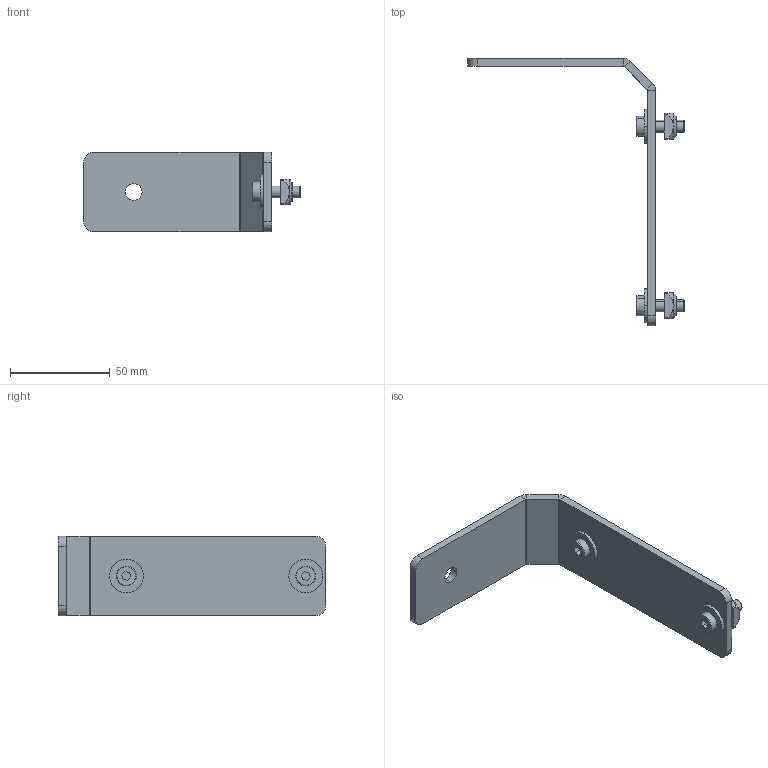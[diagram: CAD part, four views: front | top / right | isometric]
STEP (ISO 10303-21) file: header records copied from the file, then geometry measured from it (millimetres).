
FILE_DESCRIPTION (( 'STEP AP203' ), '1' );
FILE_NAME ('900.507.040.STEP', '2018-03-09T13:13:01', ( '' ), ( '' ), 'SwSTEP 2.0', 'SolidWorks 2016', '' );
FILE_SCHEMA (( 'CONFIG_CONTROL_DESIGN' ));
Length unit declared in the file: millimetre
Products named in the file (5): 900.507.040; 084.301.000 VITI ALUSIC_084.301.001; RONDELLE UNI 6592_8.4x17 UNI 6592; 900.500.001; 084.302.000 DADI ALUSIC 13x13-1_084.302.004
Assembly tree (7 placements, depth 2):
  900.507.040
    900.500.001
    084.301.000 VITI ALUSIC_084.301.001  x2
    RONDELLE UNI 6592_8.4x17 UNI 6592  x2
    084.302.000 DADI ALUSIC 13x13-1_084.302.004  x2
Bounding box: 108.54 x 134.14 x 40 mm (x, y, z)
Volume: 37456 mm3; surface area: 22834 mm2
Topology: 7 solids, 7 shells, 128 faces, 302 edges, 192 vertices
Faces by surface type: plane 54, cylinder 42, torus 16, cone 8, bspline 8
Entity records: 3239 total; most frequent: CARTESIAN_POINT 788, DIRECTION 398, ORIENTED_EDGE 376, EDGE_CURVE 188, AXIS2_PLACEMENT_3D 154, VERTEX_POINT 118, EDGE_LOOP 92, LINE 90
